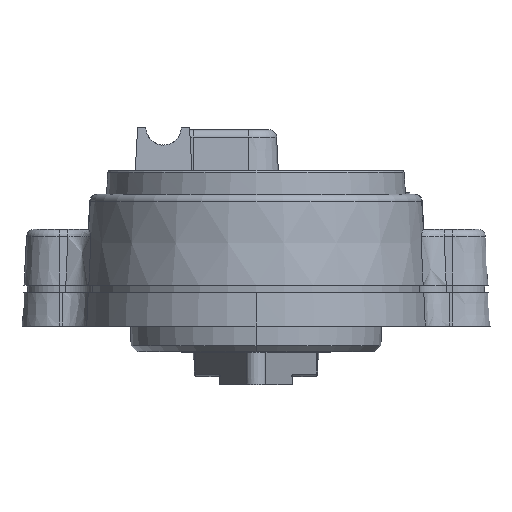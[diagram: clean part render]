
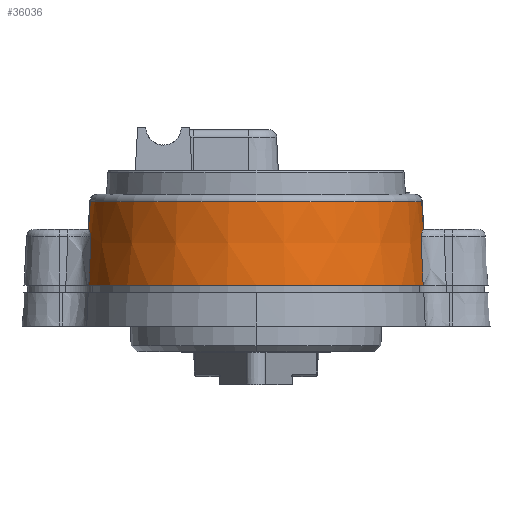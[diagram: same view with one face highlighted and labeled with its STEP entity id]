
A CAD part, left-side view. The second image highlights one B-rep face of the part: STEP entity #36036.
In plain terms, the highlighted conical face has half-angle 3 degrees and reference radius 21.75 mm.
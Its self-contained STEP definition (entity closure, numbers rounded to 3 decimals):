
#55 = B_SPLINE_CURVE_WITH_KNOTS ( 'NONE', 3,
 ( #42148, #42916, #7221, #55239, #11645, #46770, #25190 ),
 .UNSPECIFIED., .F., .F.,
 ( 4, 3, 4 ),
 ( 0.001, 0.006, 0.007 ),
 .UNSPECIFIED. ) ;
#344 = EDGE_CURVE ( 'NONE', #35169, #38916, #34518, .T. ) ;
#815 = VERTEX_POINT ( 'NONE', #46253 ) ;
#1295 = CARTESIAN_POINT ( 'NONE',  ( -62.205, 3.612, 13.526 ) ) ;
#1381 = DIRECTION ( 'NONE',  ( 0., 0., -1. ) ) ;
#1832 = B_SPLINE_CURVE_WITH_KNOTS ( 'NONE', 3,
 ( #55813, #20689, #42324, #24389, #55212, #33483, #46554 ),
 .UNSPECIFIED., .F., .F.,
 ( 4, 3, 4 ),
 ( 0., 0.001, 0.004 ),
 .UNSPECIFIED. ) ;
#2185 = CARTESIAN_POINT ( 'NONE',  ( -66.302, -17.367, 12.578 ) ) ;
#2227 = EDGE_CURVE ( 'NONE', #52297, #14721, #55, .T. ) ;
#2390 = ORIENTED_EDGE ( 'NONE', *, *, #344, .T. ) ;
#2521 = ORIENTED_EDGE ( 'NONE', *, *, #8593, .T. ) ;
#2773 = CARTESIAN_POINT ( 'NONE',  ( -65.935, -17.426, 12.807 ) ) ;
#4157 = ORIENTED_EDGE ( 'NONE', *, *, #49854, .T. ) ;
#4194 = CARTESIAN_POINT ( 'NONE',  ( -65.561, 24.702, 13.034 ) ) ;
#7221 = CARTESIAN_POINT ( 'NONE',  ( -66.436, -17.492, 9.751 ) ) ;
#7235 = VERTEX_POINT ( 'NONE', #18083 ) ;
#8072 = AXIS2_PLACEMENT_3D ( 'NONE', #13244, #1381, #31766 ) ;
#8593 = EDGE_CURVE ( 'NONE', #7235, #12452, #22208, .T. ) ;
#8627 = EDGE_CURVE ( 'NONE', #52297, #13229, #15461, .T. ) ;
#8671 = CARTESIAN_POINT ( 'NONE',  ( -65.933, 24.651, 12.808 ) ) ;
#9036 = ORIENTED_EDGE ( 'NONE', *, *, #30104, .T. ) ;
#9216 = CONICAL_SURFACE ( 'NONE', #30551, 21.75, 0.052 ) ;
#9381 = CARTESIAN_POINT ( 'NONE',  ( -63.951, -17.458, 17.028 ) ) ;
#10262 = DIRECTION ( 'NONE',  ( 0., -1., 0. ) ) ;
#10682 = CARTESIAN_POINT ( 'NONE',  ( -63.951, 24.682, 17.028 ) ) ;
#11645 = CARTESIAN_POINT ( 'NONE',  ( -66.339, -17.401, 11.801 ) ) ;
#12082 = CARTESIAN_POINT ( 'NONE',  ( -66.593, 24.861, 6.426 ) ) ;
#12452 = VERTEX_POINT ( 'NONE', #18200 ) ;
#12637 = CARTESIAN_POINT ( 'NONE',  ( -66.593, 24.861, 6.426 ) ) ;
#13229 = VERTEX_POINT ( 'NONE', #12637 ) ;
#13244 = CARTESIAN_POINT ( 'NONE',  ( -62.205, 3.612, 6.426 ) ) ;
#14721 = VERTEX_POINT ( 'NONE', #30773 ) ;
#14906 = DIRECTION ( 'NONE',  ( 0., 0., -1. ) ) ;
#15461 = CIRCLE ( 'NONE', #8072, 21.698 ) ;
#15757 = CARTESIAN_POINT ( 'NONE',  ( -64.965, -17.547, 13.302 ) ) ;
#15830 = DIRECTION ( 'NONE',  ( 0., 0., 1. ) ) ;
#16033 = EDGE_CURVE ( 'NONE', #36761, #35169, #43528, .T. ) ;
#16248 = CARTESIAN_POINT ( 'NONE',  ( -66.302, 24.591, 12.578 ) ) ;
#17727 = CARTESIAN_POINT ( 'NONE',  ( -63.901, -17.602, 14.364 ) ) ;
#17912 = CARTESIAN_POINT ( 'NONE',  ( -63.886, -17.647, 13.526 ) ) ;
#18083 = CARTESIAN_POINT ( 'NONE',  ( -63.886, -17.647, 13.526 ) ) ;
#18200 = CARTESIAN_POINT ( 'NONE',  ( -63.951, -17.458, 17.028 ) ) ;
#19281 = B_SPLINE_CURVE_WITH_KNOTS ( 'NONE', 3,
 ( #39239, #30249, #52368, #47379, #30065, #25413, #12082 ),
 .UNSPECIFIED., .F., .F.,
 ( 4, 3, 4 ),
 ( 0.001, 0.006, 0.007 ),
 .UNSPECIFIED. ) ;
#19669 = VERTEX_POINT ( 'NONE', #10682 ) ;
#20293 = CARTESIAN_POINT ( 'NONE',  ( -64.118, 24.853, 13.526 ) ) ;
#20404 = CARTESIAN_POINT ( 'NONE',  ( -64.759, -17.569, 13.38 ) ) ;
#20655 = CARTESIAN_POINT ( 'NONE',  ( -63.897, 24.87, 13.526 ) ) ;
#20689 = CARTESIAN_POINT ( 'NONE',  ( -63.945, 24.7, 16.699 ) ) ;
#21171 = CARTESIAN_POINT ( 'NONE',  ( -63.886, 24.871, 13.526 ) ) ;
#21855 = EDGE_CURVE ( 'NONE', #12452, #19669, #50070, .T. ) ;
#22208 = B_SPLINE_CURVE_WITH_KNOTS ( 'NONE', 3,
 ( #17912, #17727, #26745, #48335, #52826, #22540, #9381 ),
 .UNSPECIFIED., .F., .F.,
 ( 4, 3, 4 ),
 ( 0., 0.003, 0.004 ),
 .UNSPECIFIED. ) ;
#22540 = CARTESIAN_POINT ( 'NONE',  ( -63.945, -17.476, 16.699 ) ) ;
#24389 = CARTESIAN_POINT ( 'NONE',  ( -63.933, 24.735, 16.041 ) ) ;
#24658 = EDGE_CURVE ( 'NONE', #38916, #13229, #19281, .T. ) ;
#24834 = CARTESIAN_POINT ( 'NONE',  ( -64.334, -17.61, 13.491 ) ) ;
#25156 = ORIENTED_EDGE ( 'NONE', *, *, #24658, .T. ) ;
#25190 = CARTESIAN_POINT ( 'NONE',  ( -66.302, -17.367, 12.578 ) ) ;
#25413 = CARTESIAN_POINT ( 'NONE',  ( -66.576, 24.845, 6.796 ) ) ;
#26514 = B_SPLINE_CURVE_WITH_KNOTS ( 'NONE', 3,
 ( #2185, #2773, #50672, #15757, #20404, #24834, #55692, #33717 ),
 .UNSPECIFIED., .F., .F.,
 ( 4, 2, 2, 4 ),
 ( 0., 0.001, 0.002, 0.003 ),
 .UNSPECIFIED. ) ;
#26745 = CARTESIAN_POINT ( 'NONE',  ( -63.917, -17.556, 15.202 ) ) ;
#28369 = EDGE_CURVE ( 'NONE', #815, #7235, #56726, .T. ) ;
#29789 = AXIS2_PLACEMENT_3D ( 'NONE', #1295, #46299, #49992 ) ;
#30065 = CARTESIAN_POINT ( 'NONE',  ( -66.558, 24.829, 7.167 ) ) ;
#30104 = EDGE_CURVE ( 'NONE', #19669, #36761, #1832, .T. ) ;
#30249 = CARTESIAN_POINT ( 'NONE',  ( -66.382, 24.665, 10.898 ) ) ;
#30551 = AXIS2_PLACEMENT_3D ( 'NONE', #54817, #14906, #10262 ) ;
#30735 = CARTESIAN_POINT ( 'NONE',  ( -64.334, 24.834, 13.491 ) ) ;
#30773 = CARTESIAN_POINT ( 'NONE',  ( -66.302, -17.367, 12.578 ) ) ;
#31766 = DIRECTION ( 'NONE',  ( 0., 1., 0. ) ) ;
#33411 = CARTESIAN_POINT ( 'NONE',  ( -62.205, 3.612, 13.526 ) ) ;
#33483 = CARTESIAN_POINT ( 'NONE',  ( -63.901, 24.826, 14.364 ) ) ;
#33674 = AXIS2_PLACEMENT_3D ( 'NONE', #33411, #15830, #50549 ) ;
#33717 = CARTESIAN_POINT ( 'NONE',  ( -63.897, -17.646, 13.526 ) ) ;
#34120 = CARTESIAN_POINT ( 'NONE',  ( -66.302, 24.591, 12.578 ) ) ;
#34170 = EDGE_LOOP ( 'NONE', ( #34920, #9036, #50061, #2390, #25156, #37479, #51435, #4157, #40277, #2521 ) ) ;
#34518 = B_SPLINE_CURVE_WITH_KNOTS ( 'NONE', 3,
 ( #20655, #20293, #30735, #55586, #55962, #4194, #8671, #16248 ),
 .UNSPECIFIED., .F., .F.,
 ( 4, 2, 2, 4 ),
 ( 0., 0.001, 0.001, 0.003 ),
 .UNSPECIFIED. ) ;
#34920 = ORIENTED_EDGE ( 'NONE', *, *, #21855, .T. ) ;
#35169 = VERTEX_POINT ( 'NONE', #41424 ) ;
#36036 = ADVANCED_FACE ( 'NONE', ( #44416 ), #9216, .T. ) ;
#36047 = DIRECTION ( 'NONE',  ( 0., 1., 0. ) ) ;
#36761 = VERTEX_POINT ( 'NONE', #21171 ) ;
#36801 = CARTESIAN_POINT ( 'NONE',  ( -62.205, 3.612, 17.028 ) ) ;
#37479 = ORIENTED_EDGE ( 'NONE', *, *, #8627, .F. ) ;
#38916 = VERTEX_POINT ( 'NONE', #34120 ) ;
#39239 = CARTESIAN_POINT ( 'NONE',  ( -66.302, 24.591, 12.578 ) ) ;
#40277 = ORIENTED_EDGE ( 'NONE', *, *, #28369, .T. ) ;
#41424 = CARTESIAN_POINT ( 'NONE',  ( -63.897, 24.87, 13.526 ) ) ;
#42148 = CARTESIAN_POINT ( 'NONE',  ( -66.593, -17.637, 6.426 ) ) ;
#42324 = CARTESIAN_POINT ( 'NONE',  ( -63.939, 24.717, 16.37 ) ) ;
#42916 = CARTESIAN_POINT ( 'NONE',  ( -66.514, -17.565, 8.088 ) ) ;
#43528 = CIRCLE ( 'NONE', #29789, 21.325 ) ;
#44416 = FACE_OUTER_BOUND ( 'NONE', #34170, .T. ) ;
#46253 = CARTESIAN_POINT ( 'NONE',  ( -63.897, -17.646, 13.526 ) ) ;
#46299 = DIRECTION ( 'NONE',  ( 0., 0., 1. ) ) ;
#46554 = CARTESIAN_POINT ( 'NONE',  ( -63.886, 24.871, 13.526 ) ) ;
#46770 = CARTESIAN_POINT ( 'NONE',  ( -66.321, -17.384, 12.19 ) ) ;
#47379 = CARTESIAN_POINT ( 'NONE',  ( -66.541, 24.813, 7.538 ) ) ;
#48335 = CARTESIAN_POINT ( 'NONE',  ( -63.933, -17.511, 16.041 ) ) ;
#49324 = DIRECTION ( 'NONE',  ( 0., 0., -1. ) ) ;
#49854 = EDGE_CURVE ( 'NONE', #14721, #815, #26514, .T. ) ;
#49992 = DIRECTION ( 'NONE',  ( 0., -1., 0. ) ) ;
#50061 = ORIENTED_EDGE ( 'NONE', *, *, #16033, .T. ) ;
#50070 = CIRCLE ( 'NONE', #52370, 21.142 ) ;
#50549 = DIRECTION ( 'NONE',  ( 0., -1., 0. ) ) ;
#50672 = CARTESIAN_POINT ( 'NONE',  ( -65.561, -17.478, 13.034 ) ) ;
#50699 = CARTESIAN_POINT ( 'NONE',  ( -66.593, -17.637, 6.426 ) ) ;
#51435 = ORIENTED_EDGE ( 'NONE', *, *, #2227, .T. ) ;
#52297 = VERTEX_POINT ( 'NONE', #50699 ) ;
#52368 = CARTESIAN_POINT ( 'NONE',  ( -66.461, 24.739, 9.218 ) ) ;
#52370 = AXIS2_PLACEMENT_3D ( 'NONE', #36801, #49324, #36047 ) ;
#52826 = CARTESIAN_POINT ( 'NONE',  ( -63.939, -17.493, 16.37 ) ) ;
#54817 = CARTESIAN_POINT ( 'NONE',  ( -62.205, 3.612, 5.426 ) ) ;
#55212 = CARTESIAN_POINT ( 'NONE',  ( -63.917, 24.781, 15.202 ) ) ;
#55239 = CARTESIAN_POINT ( 'NONE',  ( -66.357, -17.418, 11.413 ) ) ;
#55586 = CARTESIAN_POINT ( 'NONE',  ( -64.759, 24.793, 13.38 ) ) ;
#55692 = CARTESIAN_POINT ( 'NONE',  ( -64.118, -17.629, 13.526 ) ) ;
#55813 = CARTESIAN_POINT ( 'NONE',  ( -63.951, 24.682, 17.028 ) ) ;
#55962 = CARTESIAN_POINT ( 'NONE',  ( -64.965, 24.771, 13.302 ) ) ;
#56726 = CIRCLE ( 'NONE', #33674, 21.325 ) ;
